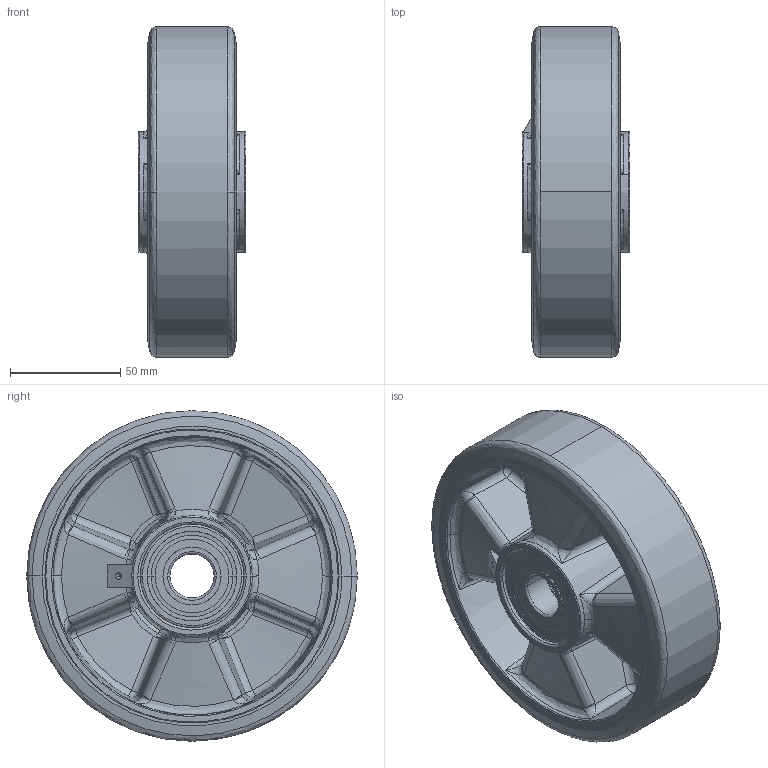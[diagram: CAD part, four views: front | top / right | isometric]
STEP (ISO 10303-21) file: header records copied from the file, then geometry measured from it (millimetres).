
FILE_DESCRIPTION (( 'STEP AP203' ), '1' );
FILE_NAME ('8017-cc.STEP', '2010-04-15T08:46:12', ( 'Utente' ), ( 'User' ), 'SwSTEP 2.0', 'SolidWorks 2008', '' );
FILE_SCHEMA (( 'CONFIG_CONTROL_DESIGN' ));
Length unit declared in the file: millimetre
Products named in the file (1): 8017-cc
Bounding box: 49 x 150 x 150 mm (x, y, z)
Surface area: 106932.7 mm2 (no closed solid volume)
Topology: 0 solids, 11 shells, 308 faces, 807 edges, 459 vertices
Faces by surface type: bspline 252, plane 34, cylinder 22
Entity records: 47684 total; most frequent: CARTESIAN_POINT 42627, ORIENTED_EDGE 1392, EDGE_CURVE 760, B_SPLINE_CURVE_WITH_KNOTS 696, VERTEX_POINT 459, EDGE_LOOP 323, FACE_OUTER_BOUND 308, ADVANCED_FACE 308
